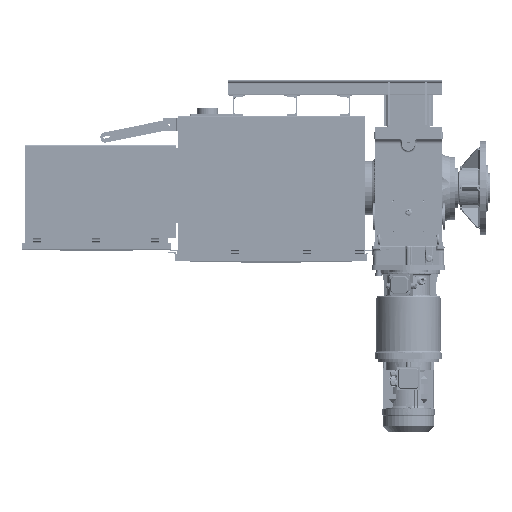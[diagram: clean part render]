
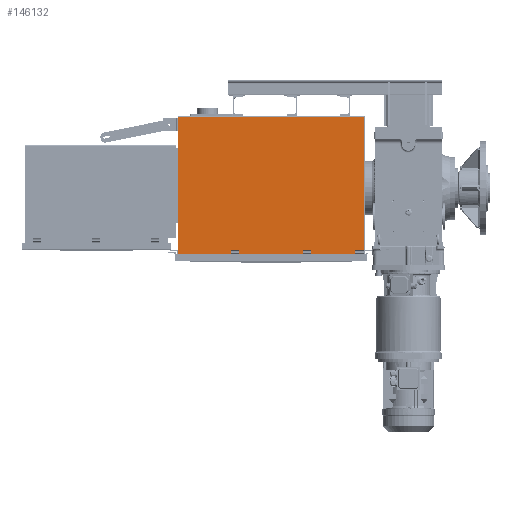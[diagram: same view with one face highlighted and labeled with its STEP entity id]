
A CAD part, top view. The second image highlights one B-rep face of the part: STEP entity #146132.
In plain terms, the highlighted planar face has unit normal (0, 0, 1).
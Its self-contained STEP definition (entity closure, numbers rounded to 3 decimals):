
#6972=FACE_BOUND('',#28452,.T.);
#6973=FACE_BOUND('',#28453,.T.);
#6974=FACE_BOUND('',#28454,.T.);
#11185=PLANE('',#158157);
#18894=FACE_OUTER_BOUND('',#28451,.T.);
#28451=EDGE_LOOP('',(#128204,#128205,#128206,#128207,#128208,#128209,#128210,
#128211,#128212,#128213,#128214,#128215));
#28452=EDGE_LOOP('',(#128216,#128217,#128218,#128219));
#28453=EDGE_LOOP('',(#128220,#128221,#128222,#128223));
#28454=EDGE_LOOP('',(#128224,#128225,#128226,#128227));
#39552=LINE('',#266953,#51116);
#39569=LINE('',#266998,#51133);
#39571=LINE('',#267002,#51135);
#39572=LINE('',#267004,#51136);
#39573=LINE('',#267013,#51137);
#39590=LINE('',#267058,#51154);
#39592=LINE('',#267062,#51156);
#39593=LINE('',#267064,#51157);
#39594=LINE('',#267073,#51158);
#39611=LINE('',#267118,#51175);
#39613=LINE('',#267122,#51177);
#39614=LINE('',#267124,#51178);
#39909=LINE('',#268031,#51473);
#39912=LINE('',#268037,#51476);
#39915=LINE('',#268044,#51479);
#39918=LINE('',#268048,#51482);
#39924=LINE('',#268060,#51488);
#39926=LINE('',#268064,#51490);
#39928=LINE('',#268067,#51492);
#39929=LINE('',#268070,#51493);
#39930=LINE('',#268072,#51494);
#39931=LINE('',#268073,#51495);
#39932=LINE('',#268075,#51496);
#39933=LINE('',#268076,#51497);
#51116=VECTOR('',#192316,40.);
#51133=VECTOR('',#192359,40.);
#51135=VECTOR('',#192363,40.);
#51136=VECTOR('',#192366,40.);
#51137=VECTOR('',#192375,40.);
#51154=VECTOR('',#192418,40.);
#51156=VECTOR('',#192422,40.);
#51157=VECTOR('',#192425,40.);
#51158=VECTOR('',#192434,40.);
#51175=VECTOR('',#192477,40.);
#51177=VECTOR('',#192481,40.);
#51178=VECTOR('',#192484,40.);
#51473=VECTOR('',#193427,865.);
#51476=VECTOR('',#193432,0.992);
#51479=VECTOR('',#193437,2.976);
#51482=VECTOR('',#193442,1.984);
#51488=VECTOR('',#193452,2.976);
#51490=VECTOR('',#193456,0.992);
#51492=VECTOR('',#193460,1.984);
#51493=VECTOR('',#193463,23.016);
#51494=VECTOR('',#193464,699.016);
#51495=VECTOR('',#193465,915.);
#51496=VECTOR('',#193466,699.016);
#51497=VECTOR('',#193467,23.016);
#69015=VERTEX_POINT('',#266951);
#69016=VERTEX_POINT('',#266952);
#69031=VERTEX_POINT('',#266996);
#69032=VERTEX_POINT('',#267000);
#69035=VERTEX_POINT('',#267011);
#69036=VERTEX_POINT('',#267012);
#69051=VERTEX_POINT('',#267056);
#69052=VERTEX_POINT('',#267060);
#69055=VERTEX_POINT('',#267071);
#69056=VERTEX_POINT('',#267072);
#69071=VERTEX_POINT('',#267116);
#69072=VERTEX_POINT('',#267120);
#69280=VERTEX_POINT('',#267756);
#69359=VERTEX_POINT('',#268023);
#69360=VERTEX_POINT('',#268027);
#69362=VERTEX_POINT('',#268035);
#69364=VERTEX_POINT('',#268041);
#69365=VERTEX_POINT('',#268043);
#69368=VERTEX_POINT('',#268057);
#69369=VERTEX_POINT('',#268059);
#69370=VERTEX_POINT('',#268063);
#69371=VERTEX_POINT('',#268069);
#69372=VERTEX_POINT('',#268071);
#69373=VERTEX_POINT('',#268074);
#88492=EDGE_CURVE('',#69015,#69016,#39552,.T.);
#88515=EDGE_CURVE('',#69016,#69031,#39569,.T.);
#88517=EDGE_CURVE('',#69032,#69015,#39571,.T.);
#88518=EDGE_CURVE('',#69031,#69032,#39572,.T.);
#88521=EDGE_CURVE('',#69035,#69036,#39573,.T.);
#88544=EDGE_CURVE('',#69036,#69051,#39590,.T.);
#88546=EDGE_CURVE('',#69052,#69035,#39592,.T.);
#88547=EDGE_CURVE('',#69051,#69052,#39593,.T.);
#88550=EDGE_CURVE('',#69055,#69056,#39594,.T.);
#88573=EDGE_CURVE('',#69056,#69071,#39611,.T.);
#88575=EDGE_CURVE('',#69072,#69055,#39613,.T.);
#88576=EDGE_CURVE('',#69071,#69072,#39614,.T.);
#89002=EDGE_CURVE('',#69359,#69360,#39909,.T.);
#89005=EDGE_CURVE('',#69360,#69362,#39912,.T.);
#89008=EDGE_CURVE('',#69365,#69364,#39915,.T.);
#89011=EDGE_CURVE('',#69362,#69365,#39918,.T.);
#89017=EDGE_CURVE('',#69369,#69368,#39924,.T.);
#89019=EDGE_CURVE('',#69370,#69359,#39926,.T.);
#89021=EDGE_CURVE('',#69368,#69370,#39928,.T.);
#89022=EDGE_CURVE('',#69371,#69364,#39929,.T.);
#89023=EDGE_CURVE('',#69372,#69371,#39930,.T.);
#89024=EDGE_CURVE('',#69372,#69280,#39931,.T.);
#89025=EDGE_CURVE('',#69373,#69280,#39932,.T.);
#89026=EDGE_CURVE('',#69369,#69373,#39933,.T.);
#128204=ORIENTED_EDGE('',*,*,#89008,.T.);
#128205=ORIENTED_EDGE('',*,*,#89022,.F.);
#128206=ORIENTED_EDGE('',*,*,#89023,.F.);
#128207=ORIENTED_EDGE('',*,*,#89024,.T.);
#128208=ORIENTED_EDGE('',*,*,#89025,.F.);
#128209=ORIENTED_EDGE('',*,*,#89026,.F.);
#128210=ORIENTED_EDGE('',*,*,#89017,.T.);
#128211=ORIENTED_EDGE('',*,*,#89021,.T.);
#128212=ORIENTED_EDGE('',*,*,#89019,.T.);
#128213=ORIENTED_EDGE('',*,*,#89002,.T.);
#128214=ORIENTED_EDGE('',*,*,#89005,.T.);
#128215=ORIENTED_EDGE('',*,*,#89011,.T.);
#128216=ORIENTED_EDGE('',*,*,#88492,.T.);
#128217=ORIENTED_EDGE('',*,*,#88515,.T.);
#128218=ORIENTED_EDGE('',*,*,#88518,.T.);
#128219=ORIENTED_EDGE('',*,*,#88517,.T.);
#128220=ORIENTED_EDGE('',*,*,#88521,.T.);
#128221=ORIENTED_EDGE('',*,*,#88544,.T.);
#128222=ORIENTED_EDGE('',*,*,#88547,.T.);
#128223=ORIENTED_EDGE('',*,*,#88546,.T.);
#128224=ORIENTED_EDGE('',*,*,#88550,.T.);
#128225=ORIENTED_EDGE('',*,*,#88573,.T.);
#128226=ORIENTED_EDGE('',*,*,#88576,.T.);
#128227=ORIENTED_EDGE('',*,*,#88575,.T.);
#146132=ADVANCED_FACE('',(#18894,#6972,#6973,#6974),#11185,.F.);
#158157=AXIS2_PLACEMENT_3D('',#268068,#193461,#193462);
#192316=DIRECTION('',(0.,1.,0.));
#192359=DIRECTION('',(1.,0.,0.));
#192363=DIRECTION('',(-1.,0.,0.));
#192366=DIRECTION('',(0.,-1.,0.));
#192375=DIRECTION('',(0.,1.,0.));
#192418=DIRECTION('',(1.,0.,0.));
#192422=DIRECTION('',(-1.,0.,0.));
#192425=DIRECTION('',(0.,-1.,0.));
#192434=DIRECTION('',(0.,1.,0.));
#192477=DIRECTION('',(1.,0.,0.));
#192481=DIRECTION('',(-1.,0.,0.));
#192484=DIRECTION('',(0.,-1.,0.));
#193427=DIRECTION('',(1.,0.,0.));
#193432=DIRECTION('',(0.,1.,0.));
#193437=DIRECTION('',(0.,-1.,0.));
#193442=DIRECTION('',(1.,0.,0.));
#193452=DIRECTION('',(0.,1.,0.));
#193456=DIRECTION('',(0.,-1.,0.));
#193460=DIRECTION('',(1.,0.,0.));
#193461=DIRECTION('center_axis',(0.,0.,
-1.));
#193462=DIRECTION('ref_axis',(1.,0.,0.));
#193463=DIRECTION('',(-1.,0.,0.));
#193464=DIRECTION('',(0.,-1.,0.));
#193465=DIRECTION('',(-1.,0.,0.));
#193466=DIRECTION('',(0.,1.,0.));
#193467=DIRECTION('',(-1.,0.,0.));
#266951=CARTESIAN_POINT('',(-387.982,-551.817,774.738));
#266952=CARTESIAN_POINT('',(-387.982,-511.817,774.738));
#266953=CARTESIAN_POINT('',(-387.982,-364.737,774.738));
#266996=CARTESIAN_POINT('',(-347.982,-511.817,774.738));
#266998=CARTESIAN_POINT('',(-585.482,-511.817,774.738));
#267000=CARTESIAN_POINT('',(-347.982,-551.817,774.738));
#267002=CARTESIAN_POINT('',(-585.482,-551.817,774.738));
#267004=CARTESIAN_POINT('',(-347.982,-364.737,774.738));
#267011=CARTESIAN_POINT('',(-997.982,-551.817,774.738));
#267012=CARTESIAN_POINT('',(-997.982,-511.817,774.738));
#267013=CARTESIAN_POINT('',(-997.982,-364.737,774.738));
#267056=CARTESIAN_POINT('',(-957.982,-511.817,774.738));
#267058=CARTESIAN_POINT('',(-890.482,-511.817,774.738));
#267060=CARTESIAN_POINT('',(-957.982,-551.817,774.738));
#267062=CARTESIAN_POINT('',(-890.482,-551.817,774.738));
#267064=CARTESIAN_POINT('',(-957.982,-364.737,774.738));
#267071=CARTESIAN_POINT('',(-647.982,-551.817,774.738));
#267072=CARTESIAN_POINT('',(-647.982,-511.817,774.738));
#267073=CARTESIAN_POINT('',(-647.982,-364.737,774.738));
#267116=CARTESIAN_POINT('',(-607.982,-511.817,774.738));
#267118=CARTESIAN_POINT('',(-715.482,-511.817,774.738));
#267120=CARTESIAN_POINT('',(-607.982,-551.817,774.738));
#267122=CARTESIAN_POINT('',(-715.482,-551.817,774.738));
#267124=CARTESIAN_POINT('',(-607.982,-364.737,774.738));
#267756=CARTESIAN_POINT('',(-1260.482,141.483,774.738));
#268023=CARTESIAN_POINT('',(-1235.482,-555.55,774.738));
#268027=CARTESIAN_POINT('',(-370.482,-555.55,774.738));
#268031=CARTESIAN_POINT('',(-586.732,-555.55,774.738));
#268035=CARTESIAN_POINT('',(-370.482,-554.558,774.738));
#268037=CARTESIAN_POINT('',(-370.482,-380.17,774.738));
#268041=CARTESIAN_POINT('',(-368.498,-557.534,774.738));
#268043=CARTESIAN_POINT('',(-368.498,-554.558,774.738));
#268044=CARTESIAN_POINT('',(-368.498,-381.658,774.738));
#268048=CARTESIAN_POINT('',(-585.74,-554.558,774.738));
#268057=CARTESIAN_POINT('',(-1237.466,-554.558,774.738));
#268059=CARTESIAN_POINT('',(-1237.466,-557.534,774.738));
#268060=CARTESIAN_POINT('',(-1237.466,-380.17,774.738));
#268063=CARTESIAN_POINT('',(-1235.482,-554.558,774.738));
#268064=CARTESIAN_POINT('',(-1235.482,-381.658,774.738));
#268067=CARTESIAN_POINT('',(-1019.232,-554.558,774.738));
#268068=CARTESIAN_POINT('Origin',(-802.982,-205.782,774.738));
#268069=CARTESIAN_POINT('',(-345.482,-557.534,774.738));
#268070=CARTESIAN_POINT('',(-345.482,-557.534,774.738));
#268071=CARTESIAN_POINT('',(-345.482,141.483,774.738));
#268072=CARTESIAN_POINT('',(-345.482,141.483,774.738));
#268073=CARTESIAN_POINT('',(-802.982,141.483,774.738));
#268074=CARTESIAN_POINT('',(-1260.482,-557.534,774.738));
#268075=CARTESIAN_POINT('',(-1260.482,150.457,774.738));
#268076=CARTESIAN_POINT('',(-345.482,-557.534,774.738));
